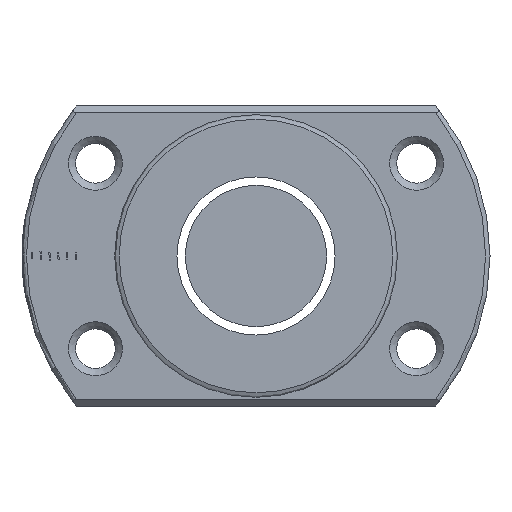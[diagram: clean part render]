
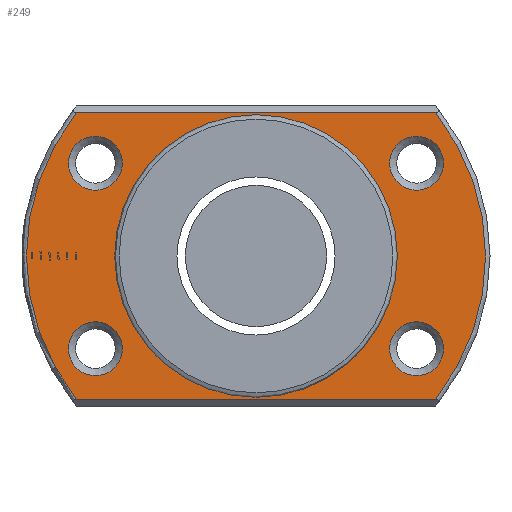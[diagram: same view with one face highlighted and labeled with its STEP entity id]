
A CAD part, left-side view. The second image highlights one B-rep face of the part: STEP entity #249.
In plain terms, the highlighted planar face has unit normal (-1, 0, 0).
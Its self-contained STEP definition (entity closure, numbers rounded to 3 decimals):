
#43 = DIRECTION ( 'NONE',  ( 0., -1., 0. ) ) ;
#72 = EDGE_CURVE ( 'NONE', #2400, #2400, #664, .T. ) ;
#74 = DIRECTION ( 'NONE',  ( 0., 0., 1. ) ) ;
#83 = FACE_BOUND ( 'NONE', #1131, .T. ) ;
#84 = AXIS2_PLACEMENT_3D ( 'NONE', #1028, #2202, #1708 ) ;
#86 = VECTOR ( 'NONE', #43, 1000. ) ;
#93 = DIRECTION ( 'NONE',  ( 0., 0., 1. ) ) ;
#124 = VERTEX_POINT ( 'NONE', #2242 ) ;
#146 = CARTESIAN_POINT ( 'NONE',  ( -34.9, 0., 0. ) ) ;
#161 = ORIENTED_EDGE ( 'NONE', *, *, #1277, .T. ) ;
#189 = ORIENTED_EDGE ( 'NONE', *, *, #1156, .T. ) ;
#190 = CARTESIAN_POINT ( 'NONE',  ( -34.9, 20.336, 16.2 ) ) ;
#235 = ORIENTED_EDGE ( 'NONE', *, *, #1002, .T. ) ;
#238 = AXIS2_PLACEMENT_3D ( 'NONE', #390, #1091, #1335 ) ;
#249 = ADVANCED_FACE ( 'NONE', ( #2669, #1498, #83, #338, #770, #2435 ), #1269, .T. ) ;
#279 = VERTEX_POINT ( 'NONE', #2644 ) ;
#338 = FACE_BOUND ( 'NONE', #1792, .T. ) ;
#362 = CARTESIAN_POINT ( 'NONE',  ( -34.9, 18.187, 13.55 ) ) ;
#372 = CIRCLE ( 'NONE', #2834, 3.05 ) ;
#390 = CARTESIAN_POINT ( 'NONE',  ( -34.9, -18.187, 10.5 ) ) ;
#491 = DIRECTION ( 'NONE',  ( 1., 0., 0. ) ) ;
#554 = LINE ( 'NONE', #1268, #86 ) ;
#588 = CARTESIAN_POINT ( 'NONE',  ( -34.9, 18.187, 10.5 ) ) ;
#616 = CIRCLE ( 'NONE', #2584, 26. ) ;
#619 = ORIENTED_EDGE ( 'NONE', *, *, #930, .T. ) ;
#654 = VERTEX_POINT ( 'NONE', #190 ) ;
#664 = CIRCLE ( 'NONE', #2522, 16. ) ;
#739 = DIRECTION ( 'NONE',  ( 0., 0., 1. ) ) ;
#752 = CARTESIAN_POINT ( 'NONE',  ( -34.9, -18.187, -10.5 ) ) ;
#770 = FACE_BOUND ( 'NONE', #2127, .T. ) ;
#777 = DIRECTION ( 'NONE',  ( 1., 0., 0. ) ) ;
#802 = CARTESIAN_POINT ( 'NONE',  ( -34.9, 18.187, -7.45 ) ) ;
#818 = CARTESIAN_POINT ( 'NONE',  ( -34.9, -18.187, 13.55 ) ) ;
#837 = CARTESIAN_POINT ( 'NONE',  ( -34.9, -20.336, 16.2 ) ) ;
#930 = EDGE_CURVE ( 'NONE', #124, #124, #372, .T. ) ;
#983 = CARTESIAN_POINT ( 'NONE',  ( -34.9, 0., 0. ) ) ;
#1002 = EDGE_CURVE ( 'NONE', #654, #279, #2527, .T. ) ;
#1028 = CARTESIAN_POINT ( 'NONE',  ( -34.9, 26.5, 0. ) ) ;
#1035 = EDGE_LOOP ( 'NONE', ( #2579, #2911, #161, #235 ) ) ;
#1076 = DIRECTION ( 'NONE',  ( -1., 0., 0. ) ) ;
#1091 = DIRECTION ( 'NONE',  ( 1., 0., 0. ) ) ;
#1131 = EDGE_LOOP ( 'NONE', ( #1334 ) ) ;
#1156 = EDGE_CURVE ( 'NONE', #2227, #2227, #2223, .T. ) ;
#1265 = DIRECTION ( 'NONE',  ( -1., 0., 0. ) ) ;
#1268 = CARTESIAN_POINT ( 'NONE',  ( -34.9, 26.5, -16.2 ) ) ;
#1269 = PLANE ( 'NONE',  #84 ) ;
#1277 = EDGE_CURVE ( 'NONE', #2829, #654, #1333, .T. ) ;
#1333 = LINE ( 'NONE', #1801, #1942 ) ;
#1334 = ORIENTED_EDGE ( 'NONE', *, *, #2617, .T. ) ;
#1335 = DIRECTION ( 'NONE',  ( 0., 0., 1. ) ) ;
#1422 = DIRECTION ( 'NONE',  ( 0., 0., 1. ) ) ;
#1436 = CARTESIAN_POINT ( 'NONE',  ( -34.9, 18.187, -10.5 ) ) ;
#1478 = DIRECTION ( 'NONE',  ( 1., 0., 0. ) ) ;
#1496 = EDGE_CURVE ( 'NONE', #1555, #2829, #616, .T. ) ;
#1498 = FACE_BOUND ( 'NONE', #2275, .T. ) ;
#1547 = CIRCLE ( 'NONE', #2041, 3.05 ) ;
#1555 = VERTEX_POINT ( 'NONE', #2808 ) ;
#1593 = ORIENTED_EDGE ( 'NONE', *, *, #72, .T. ) ;
#1701 = CIRCLE ( 'NONE', #238, 3.05 ) ;
#1708 = DIRECTION ( 'NONE',  ( 0., 0., 1. ) ) ;
#1737 = EDGE_LOOP ( 'NONE', ( #2942 ) ) ;
#1792 = EDGE_LOOP ( 'NONE', ( #189 ) ) ;
#1801 = CARTESIAN_POINT ( 'NONE',  ( -34.9, 26.5, 16.2 ) ) ;
#1867 = DIRECTION ( 'NONE',  ( 0., 0., -1. ) ) ;
#1900 = AXIS2_PLACEMENT_3D ( 'NONE', #983, #1265, #739 ) ;
#1925 = EDGE_CURVE ( 'NONE', #279, #1555, #554, .T. ) ;
#1942 = VECTOR ( 'NONE', #2986, 1000. ) ;
#1949 = CARTESIAN_POINT ( 'NONE',  ( -34.9, 0., -16. ) ) ;
#1961 = VERTEX_POINT ( 'NONE', #818 ) ;
#1967 = DIRECTION ( 'NONE',  ( 1., 0., 0. ) ) ;
#1975 = VERTEX_POINT ( 'NONE', #802 ) ;
#2011 = DIRECTION ( 'NONE',  ( 0., 0., 1. ) ) ;
#2041 = AXIS2_PLACEMENT_3D ( 'NONE', #1436, #1478, #1422 ) ;
#2089 = AXIS2_PLACEMENT_3D ( 'NONE', #588, #1967, #74 ) ;
#2091 = EDGE_CURVE ( 'NONE', #1975, #1975, #1547, .T. ) ;
#2127 = EDGE_LOOP ( 'NONE', ( #1593 ) ) ;
#2202 = DIRECTION ( 'NONE',  ( -1., 0., 0. ) ) ;
#2223 = CIRCLE ( 'NONE', #2089, 3.05 ) ;
#2227 = VERTEX_POINT ( 'NONE', #362 ) ;
#2242 = CARTESIAN_POINT ( 'NONE',  ( -34.9, -18.187, -7.45 ) ) ;
#2275 = EDGE_LOOP ( 'NONE', ( #619 ) ) ;
#2362 = CARTESIAN_POINT ( 'NONE',  ( -34.9, 0., 0. ) ) ;
#2400 = VERTEX_POINT ( 'NONE', #1949 ) ;
#2435 = FACE_OUTER_BOUND ( 'NONE', #1035, .T. ) ;
#2522 = AXIS2_PLACEMENT_3D ( 'NONE', #2362, #491, #1867 ) ;
#2527 = CIRCLE ( 'NONE', #1900, 26. ) ;
#2579 = ORIENTED_EDGE ( 'NONE', *, *, #1925, .T. ) ;
#2584 = AXIS2_PLACEMENT_3D ( 'NONE', #146, #1076, #2011 ) ;
#2617 = EDGE_CURVE ( 'NONE', #1961, #1961, #1701, .T. ) ;
#2644 = CARTESIAN_POINT ( 'NONE',  ( -34.9, 20.336, -16.2 ) ) ;
#2669 = FACE_BOUND ( 'NONE', #1737, .T. ) ;
#2808 = CARTESIAN_POINT ( 'NONE',  ( -34.9, -20.336, -16.2 ) ) ;
#2829 = VERTEX_POINT ( 'NONE', #837 ) ;
#2834 = AXIS2_PLACEMENT_3D ( 'NONE', #752, #777, #93 ) ;
#2911 = ORIENTED_EDGE ( 'NONE', *, *, #1496, .T. ) ;
#2942 = ORIENTED_EDGE ( 'NONE', *, *, #2091, .T. ) ;
#2986 = DIRECTION ( 'NONE',  ( 0., 1., 0. ) ) ;
